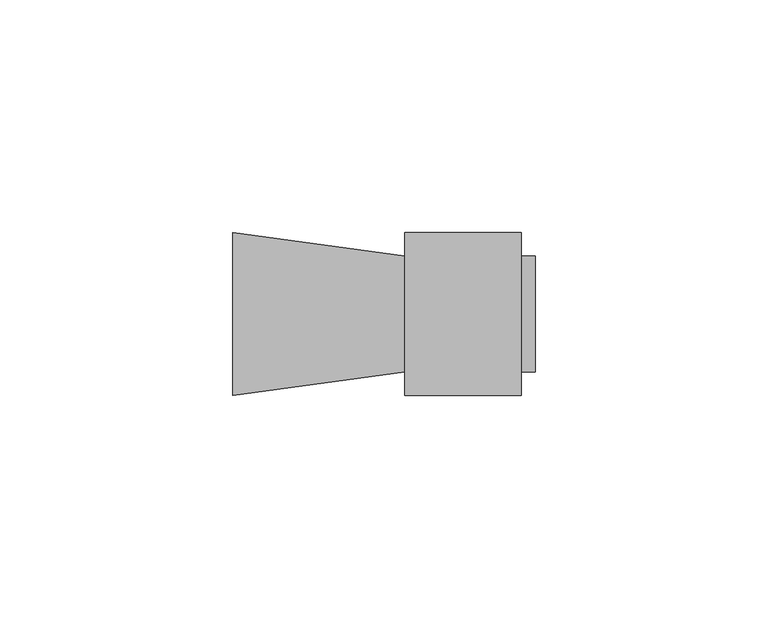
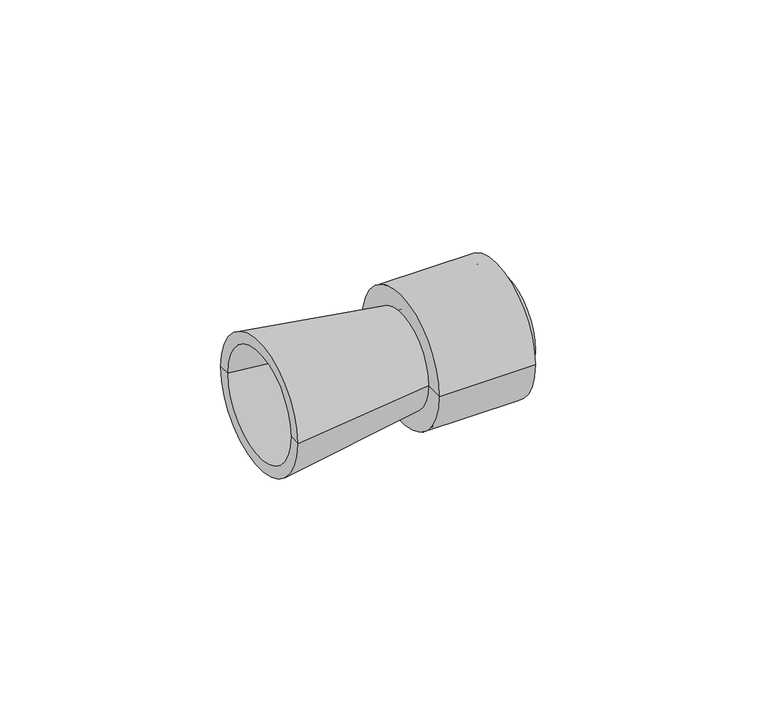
"""IFC4 building model written with IfcOpenShell, lengths in millimetres: cable carrier fitting geometry, КНС_ПереходникАрмированнаяТрубаЖесткаяТруба_IP67_DKC : Коробка."""

from ifc_helpers import new_model, si_unit, frame, origin, place, context, project, spatial, polyline, circle_curve, source, transform, mapped, element, save
from ifc_brep_helpers import plane_surface, cylinder_surface, revolved_surface, advanced_brep


def cable_carrier_fitting_73b6cbb2(model_context):
    return source(origin(), model_context, "Body", "AdvancedBrep", [
        advanced_brep(
        [(-37.0, -17.5, 0.0), (-37.0, 17.5, 0.0), (0.0, 12.5, 0.0), (0.0, -12.5, 0.0), (-37.0, -14.4727317, 0.0), (-37.0, 14.4727317, 0.0), (0.0, -9.4727317, 0.0), (0.0, 9.4727317, 0.0)],
        [
            (0, 1, circle_curve(frame((-37.0, 0.0, 0.0), z_axis=(1.0, 0.0, 0.0), x_axis=(0.0, 1.0, 0.0)), 17.5)),
            (1, 2),
            (2, 3, circle_curve(frame((0.0, 0.0, 0.0), z_axis=(-1.0, 0.0, 0.0), x_axis=(0.0, 1.0, 0.0)), 12.5)),
            (3, 0),
            (1, 0, circle_curve(frame((-37.0, 0.0, 0.0), z_axis=(1.0, 0.0, 0.0), x_axis=(0.0, 1.0, 0.0)), 17.5)),
            (3, 2, circle_curve(frame((0.0, 0.0, 0.0), z_axis=(-1.0, 0.0, 0.0), x_axis=(0.0, 1.0, 0.0)), 12.5)),
            (4, 5, circle_curve(frame((-37.0, 0.0, 0.0), z_axis=(1.0, 0.0, 0.0), x_axis=(0.0, 1.0, 0.0)), 14.4727317)),
            (5, 1),
            (0, 4),
            (5, 4, circle_curve(frame((-37.0, 0.0, 0.0), z_axis=(1.0, 0.0, 0.0), x_axis=(0.0, 1.0, 0.0)), 14.4727317)),
            (6, 7, circle_curve(frame((0.0, 0.0, 0.0), z_axis=(1.0, 0.0, 0.0), x_axis=(0.0, 1.0, 0.0)), 9.4727317)),
            (7, 5),
            (4, 6),
            (7, 6, circle_curve(frame((0.0, 0.0, 0.0), z_axis=(1.0, 0.0, 0.0), x_axis=(0.0, 1.0, 0.0)), 9.4727317)),
            (2, 7),
            (6, 3),
        ],
        [
            revolved_surface(polyline([(0.0, 12.5, 0.0), (-37.0, 17.5, 0.0)]), (1519.0, 0.0, 0.0), (-1.0, 0.0, 0.0)),
            plane_surface(frame((-37.0, 0.0, 0.0), z_axis=(-1.0, 0.0, 0.0), x_axis=(0.0, 1.0, 0.0))),
            revolved_surface(polyline([(-37.0, 14.4727317, 0.0), (0.0, 9.4727317, 0.0)]), (1519.0, 0.0, 0.0), (-1.0, 0.0, 0.0)),
            plane_surface(frame((0.0, 0.0, 0.0), z_axis=(1.0, 0.0, 0.0), x_axis=(0.0, 1.0, 0.0))),
        ],
        [
            (0, [[1, 2, 3, 4]]),
            (0, [[5, -4, 6, -2]]),
            (1, [[7, 8, -1, 9]]),
            (1, [[10, -9, -5, -8]]),
            (2, [[11, 12, -7, 13]]),
            (2, [[14, -13, -10, -12]]),
            (3, [[-3, 15, -11, 16]]),
            (3, [[-6, -16, -14, -15]]),
        ],
    ),
        advanced_brep(
        [(3.0, -10.5, 0.0), (3.0, 10.5, 0.0), (3.0, 0.0, 0.0), (28.0, -10.5, 0.0), (28.0, 10.5, 0.0), (28.0, -12.5, 0.0), (28.0, 12.5, 0.0), (3.0, -12.5, 0.0), (3.0, 12.5, 0.0), (3.0, -14.7376891, 0.0), (3.0, 14.7376891, 0.0), (25.0, -14.7376891, 0.0), (25.0, 14.7376891, 0.0), (25.0, -17.5, 0.0), (25.0, 17.5, 0.0), (0.0, -17.5, 0.0), (0.0, 17.5, 0.0), (0.0, 0.0, 0.0)],
        [
            (0, 1, circle_curve(frame((3.0, 0.0, 0.0), z_axis=(1.0, 0.0, 0.0), x_axis=(0.0, 1.0, 0.0)), 10.5)),
            (1, 2),
            (2, 0),
            (1, 0, circle_curve(frame((3.0, 0.0, 0.0), z_axis=(1.0, 0.0, 0.0), x_axis=(0.0, 1.0, 0.0)), 10.5)),
            (3, 4, circle_curve(frame((28.0, 0.0, 0.0), z_axis=(1.0, 0.0, 0.0), x_axis=(0.0, 1.0, 0.0)), 10.5)),
            (4, 1),
            (0, 3),
            (4, 3, circle_curve(frame((28.0, 0.0, 0.0), z_axis=(1.0, 0.0, 0.0), x_axis=(0.0, 1.0, 0.0)), 10.5)),
            (5, 6, circle_curve(frame((28.0, 0.0, 0.0), z_axis=(1.0, 0.0, 0.0), x_axis=(0.0, 1.0, 0.0)), 12.5)),
            (6, 4),
            (3, 5),
            (6, 5, circle_curve(frame((28.0, 0.0, 0.0), z_axis=(1.0, 0.0, 0.0), x_axis=(0.0, 1.0, 0.0)), 12.5)),
            (7, 8, circle_curve(frame((3.0, 0.0, 0.0), z_axis=(1.0, 0.0, 0.0), x_axis=(0.0, 1.0, 0.0)), 12.5)),
            (8, 6),
            (5, 7),
            (8, 7, circle_curve(frame((3.0, 0.0, 0.0), z_axis=(1.0, 0.0, 0.0), x_axis=(0.0, 1.0, 0.0)), 12.5)),
            (9, 10, circle_curve(frame((3.0, 0.0, 0.0), z_axis=(1.0, 0.0, 0.0), x_axis=(0.0, 1.0, 0.0)), 14.7376891)),
            (10, 8),
            (7, 9),
            (10, 9, circle_curve(frame((3.0, 0.0, 0.0), z_axis=(1.0, 0.0, 0.0), x_axis=(0.0, 1.0, 0.0)), 14.7376891)),
            (11, 12, circle_curve(frame((25.0, 0.0, 0.0), z_axis=(1.0, 0.0, 0.0), x_axis=(0.0, 1.0, 0.0)), 14.7376891)),
            (12, 10),
            (9, 11),
            (12, 11, circle_curve(frame((25.0, 0.0, 0.0), z_axis=(1.0, 0.0, 0.0), x_axis=(0.0, 1.0, 0.0)), 14.7376891)),
            (13, 14, circle_curve(frame((25.0, 0.0, 0.0), z_axis=(1.0, 0.0, 0.0), x_axis=(0.0, 1.0, 0.0)), 17.5)),
            (14, 12),
            (11, 13),
            (14, 13, circle_curve(frame((25.0, 0.0, 0.0), z_axis=(1.0, 0.0, 0.0), x_axis=(0.0, 1.0, 0.0)), 17.5)),
            (15, 16, circle_curve(frame((0.0, 0.0, 0.0), z_axis=(1.0, 0.0, 0.0), x_axis=(0.0, 1.0, 0.0)), 17.5)),
            (16, 14),
            (13, 15),
            (16, 15, circle_curve(frame((0.0, 0.0, 0.0), z_axis=(1.0, 0.0, 0.0), x_axis=(0.0, 1.0, 0.0)), 17.5)),
            (17, 16),
            (15, 17),
        ],
        [
            plane_surface(frame((3.0, 0.0, 0.0), z_axis=(1.0, 0.0, 0.0), x_axis=(0.0, 1.0, 0.0))),
            revolved_surface(polyline([(3.0, 10.5, 0.0), (28.0, 10.5, 0.0)]), (1523.5, 0.0, 0.0), (-1.0, 0.0, 0.0)),
            plane_surface(frame((28.0, 0.0, 0.0), z_axis=(1.0, 0.0, 0.0), x_axis=(0.0, 1.0, 0.0))),
            cylinder_surface(frame((1523.5, 0.0, 0.0), z_axis=(-1.0, 0.0, 0.0), x_axis=(0.0, 1.0, 0.0)), 12.5),
            revolved_surface(polyline([(3.0, 14.7376891, 0.0), (25.0, 14.7376891, 0.0)]), (1523.5, 0.0, 0.0), (-1.0, 0.0, 0.0)),
            plane_surface(frame((25.0, 0.0, 0.0), z_axis=(1.0, 0.0, 0.0), x_axis=(0.0, 1.0, 0.0))),
            cylinder_surface(frame((1523.5, 0.0, 0.0), z_axis=(-1.0, 0.0, 0.0), x_axis=(0.0, 1.0, 0.0)), 17.5),
            plane_surface(frame((0.0, 0.0, 0.0), z_axis=(-1.0, 0.0, 0.0), x_axis=(0.0, 1.0, 0.0))),
        ],
        [
            (0, [[1, 2, 3]]),
            (0, [[4, -3, -2]]),
            (1, [[5, 6, -1, 7]]),
            (1, [[8, -7, -4, -6]]),
            (2, [[9, 10, -5, 11]]),
            (2, [[12, -11, -8, -10]]),
            (3, [[13, 14, -9, 15]]),
            (3, [[16, -15, -12, -14]]),
            (0, [[17, 18, -13, 19]]),
            (0, [[20, -19, -16, -18]]),
            (4, [[21, 22, -17, 23]]),
            (4, [[24, -23, -20, -22]]),
            (5, [[25, 26, -21, 27]]),
            (5, [[28, -27, -24, -26]]),
            (6, [[29, 30, -25, 31]]),
            (6, [[32, -31, -28, -30]]),
            (7, [[33, -29, 34]]),
            (7, [[-34, -32, -33]]),
        ],
    ),
    ])


if __name__ == "__main__":
    model = new_model("IFC4")
    model_context = context("Model", 3, world=origin())
    ifc_project = project(units=[si_unit("LENGTHUNIT", "METRE", prefix="MILLI")], contexts=[model_context])
    site = spatial("IfcSite", under=ifc_project)
    building = spatial("IfcBuilding", under=site)
    placement = place(None, origin())
    cable_carrier_fitting_shape = cable_carrier_fitting_73b6cbb2(model_context)
    element("IfcCableCarrierFitting", 1, ObjectType="КНС_ПереходникАрмированнаяТрубаЖесткаяТруба_IP67_DKC : Коробка", at=placement, inside=building, context=model_context, shape_type="MappedRepresentation", body=[
        mapped(cable_carrier_fitting_shape, transform((0.0, 0.0, 0.0), x_axis=(1.0, 0.0, 0.0), y_axis=(0.0, 1.0, 0.0), z_axis=(0.0, 0.0, 1.0))),
    ])
    save(model, "model.ifc")
